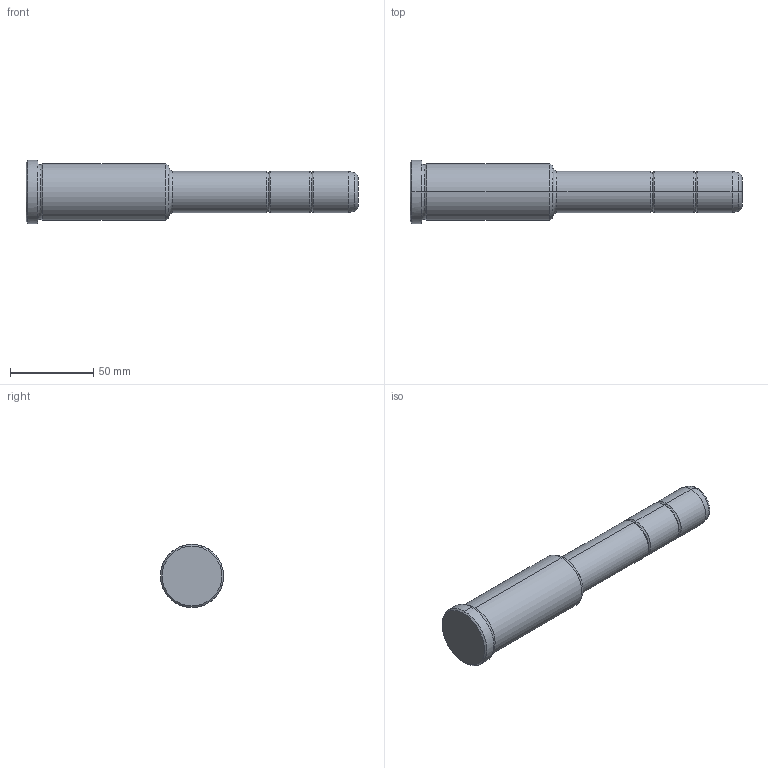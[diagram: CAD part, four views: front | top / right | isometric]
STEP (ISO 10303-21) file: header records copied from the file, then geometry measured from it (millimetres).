
FILE_DESCRIPTION(('CATIA V5 STEP Exchange'),'2;1');
FILE_NAME('C:\Users\Utente\Desktop\IO LAVORO\3D X SITO CF\X SITO\PLASTICA\351\351-25X86X200.stp','2021-09-07T11:25:02+00:00',('none'),('none'),'CATIA Version 5 Release 20 GA (IN-10)','CATIA V5 STEP AP203','none');
FILE_SCHEMA(('CONFIG_CONTROL_DESIGN'));
Length unit declared in the file: millimetre
Products named in the file (1): 351-25X86X200
Bounding box: 200 x 38 x 38 mm (x, y, z)
Volume: 134835.1 mm3; surface area: 20185.8 mm2
Topology: 1 solids, 1 shells, 36 faces, 102 edges, 70 vertices
Faces by surface type: torus 16, cylinder 10, cone 6, plane 4
Entity records: 1292 total; most frequent: CARTESIAN_POINT 321, ORIENTED_EDGE 204, DIRECTION 166, AXIS2_PLACEMENT_3D 115, EDGE_CURVE 102, CIRCLE 78, VERTEX_POINT 70, EDGE_LOOP 38
